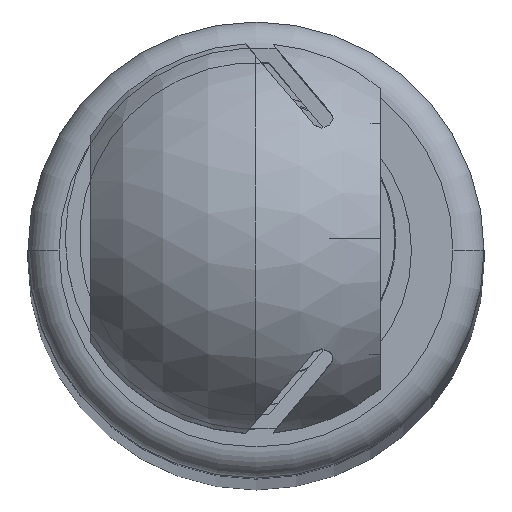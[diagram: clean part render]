
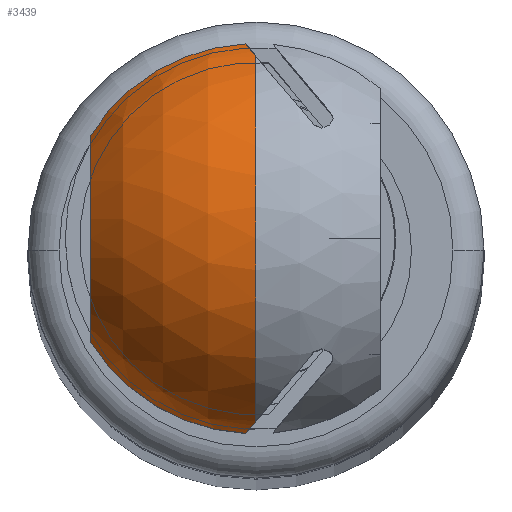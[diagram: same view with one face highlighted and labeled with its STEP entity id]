
A CAD part, top view. The second image highlights one B-rep face of the part: STEP entity #3439.
In plain terms, the highlighted spherical face has radius 10 mm.
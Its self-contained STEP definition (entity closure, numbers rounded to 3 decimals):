
#467 = VERTEX_POINT ( 'NONE', #1748 ) ;
#472 = VERTEX_POINT ( 'NONE', #1746 ) ;
#496 = EDGE_LOOP ( 'NONE', ( #2467, #2543, #2601, #2473, #2458, #2572, #2584 ) ) ;
#660 = VERTEX_POINT ( 'NONE', #1709 ) ;
#662 = VERTEX_POINT ( 'NONE', #1708 ) ;
#713 = VERTEX_POINT ( 'NONE', #1896 ) ;
#735 = VERTEX_POINT ( 'NONE', #1826 ) ;
#737 = VERTEX_POINT ( 'NONE', #1836 ) ;
#1112 = DIRECTION ( 'NONE',  ( 0., -0.643, 0.766 ) ) ;
#1113 = DIRECTION ( 'NONE',  ( 0., -0.766, -0.643 ) ) ;
#1118 = CARTESIAN_POINT ( 'NONE',  ( -127., 3.635, -4.332 ) ) ;
#1139 = DIRECTION ( 'NONE',  ( 1., 0., 0. ) ) ;
#1140 = DIRECTION ( 'NONE',  ( 0., 0., 1. ) ) ;
#1141 = CARTESIAN_POINT ( 'NONE',  ( -127., 0., 0. ) ) ;
#1185 = CARTESIAN_POINT ( 'NONE',  ( -130.4, 0., 0. ) ) ;
#1191 = DIRECTION ( 'NONE',  ( -1., 0., 0. ) ) ;
#1205 = DIRECTION ( 'NONE',  ( 0., 0., 1. ) ) ;
#1265 = DIRECTION ( 'NONE',  ( -1., 0., 0. ) ) ;
#1266 = DIRECTION ( 'NONE',  ( 0., 0., -1. ) ) ;
#1267 = CARTESIAN_POINT ( 'NONE',  ( -127., 0., 8. ) ) ;
#1374 = DIRECTION ( 'NONE',  ( -1., 0., 0. ) ) ;
#1375 = DIRECTION ( 'NONE',  ( 0., 0., -1. ) ) ;
#1376 = CARTESIAN_POINT ( 'NONE',  ( -127., 0., 0. ) ) ;
#1397 = DIRECTION ( 'NONE',  ( 0., 1., 0. ) ) ;
#1398 = DIRECTION ( 'NONE',  ( 0., 0., -1. ) ) ;
#1399 = CARTESIAN_POINT ( 'NONE',  ( -127., 0., 0. ) ) ;
#1446 = DIRECTION ( 'NONE',  ( 0., -0.766, 0.643 ) ) ;
#1447 = DIRECTION ( 'NONE',  ( 0., 0.643, 0.766 ) ) ;
#1448 = CARTESIAN_POINT ( 'NONE',  ( -127., -3.635, -4.332 ) ) ;
#1595 = DIRECTION ( 'NONE',  ( 0., 0., 1. ) ) ;
#1596 = DIRECTION ( 'NONE',  ( -1., 0., 0. ) ) ;
#1597 = CARTESIAN_POINT ( 'NONE',  ( -130.4, 0., 0. ) ) ;
#1708 = CARTESIAN_POINT ( 'NONE',  ( -130.4, -4.944, 8. ) ) ;
#1709 = CARTESIAN_POINT ( 'NONE',  ( -130.4, 4.944, 8. ) ) ;
#1746 = CARTESIAN_POINT ( 'NONE',  ( -130.4, 9.391, 0.497 ) ) ;
#1748 = CARTESIAN_POINT ( 'NONE',  ( -130.4, -9.391, 0.497 ) ) ;
#1826 = CARTESIAN_POINT ( 'NONE',  ( -131.752, 8.799, 0. ) ) ;
#1836 = CARTESIAN_POINT ( 'NONE',  ( -137., 0., 0. ) ) ;
#1896 = CARTESIAN_POINT ( 'NONE',  ( -131.752, -8.799, 0. ) ) ;
#2442 = FACE_OUTER_BOUND ( 'NONE', #496, .T. ) ;
#2446 = SPHERICAL_SURFACE ( 'NONE', #3667, 10. ) ;
#2458 = ORIENTED_EDGE ( 'NONE', *, *, #3322, .T. ) ;
#2467 = ORIENTED_EDGE ( 'NONE', *, *, #3446, .F. ) ;
#2473 = ORIENTED_EDGE ( 'NONE', *, *, #4035, .T. ) ;
#2543 = ORIENTED_EDGE ( 'NONE', *, *, #3427, .T. ) ;
#2572 = ORIENTED_EDGE ( 'NONE', *, *, #3291, .T. ) ;
#2584 = ORIENTED_EDGE ( 'NONE', *, *, #3271, .T. ) ;
#2601 = ORIENTED_EDGE ( 'NONE', *, *, #3378, .T. ) ;
#3271 = EDGE_CURVE ( 'NONE', #735, #737, #4585, .T. ) ;
#3291 = EDGE_CURVE ( 'NONE', #472, #735, #4609, .T. ) ;
#3322 = EDGE_CURVE ( 'NONE', #660, #472, #4800, .T. ) ;
#3378 = EDGE_CURVE ( 'NONE', #467, #662, #4807, .T. ) ;
#3427 = EDGE_CURVE ( 'NONE', #713, #467, #3692, .T. ) ;
#3439 = ADVANCED_FACE ( 'NONE', ( #2442 ), #2446, .T. ) ;
#3446 = EDGE_CURVE ( 'NONE', #713, #737, #3746, .T. ) ;
#3667 = AXIS2_PLACEMENT_3D ( 'NONE', #1399, #1398, #1397 ) ;
#3672 = CIRCLE ( 'NONE', #3707, 6. ) ;
#3675 = AXIS2_PLACEMENT_3D ( 'NONE', #1448, #1447, #1446 ) ;
#3692 = CIRCLE ( 'NONE', #3675, 8.247 ) ;
#3707 = AXIS2_PLACEMENT_3D ( 'NONE', #1267, #1266, #1265 ) ;
#3736 = AXIS2_PLACEMENT_3D ( 'NONE', #1376, #1375, #1374 ) ;
#3746 = CIRCLE ( 'NONE', #3736, 10. ) ;
#4035 = EDGE_CURVE ( 'NONE', #662, #660, #3672, .T. ) ;
#4582 = AXIS2_PLACEMENT_3D ( 'NONE', #1141, #1140, #1139 ) ;
#4585 = CIRCLE ( 'NONE', #4582, 10. ) ;
#4609 = CIRCLE ( 'NONE', #4616, 8.247 ) ;
#4616 = AXIS2_PLACEMENT_3D ( 'NONE', #1118, #1112, #1113 ) ;
#4750 = AXIS2_PLACEMENT_3D ( 'NONE', #1185, #1191, #1205 ) ;
#4800 = CIRCLE ( 'NONE', #4750, 9.404 ) ;
#4806 = AXIS2_PLACEMENT_3D ( 'NONE', #1597, #1596, #1595 ) ;
#4807 = CIRCLE ( 'NONE', #4806, 9.404 ) ;
